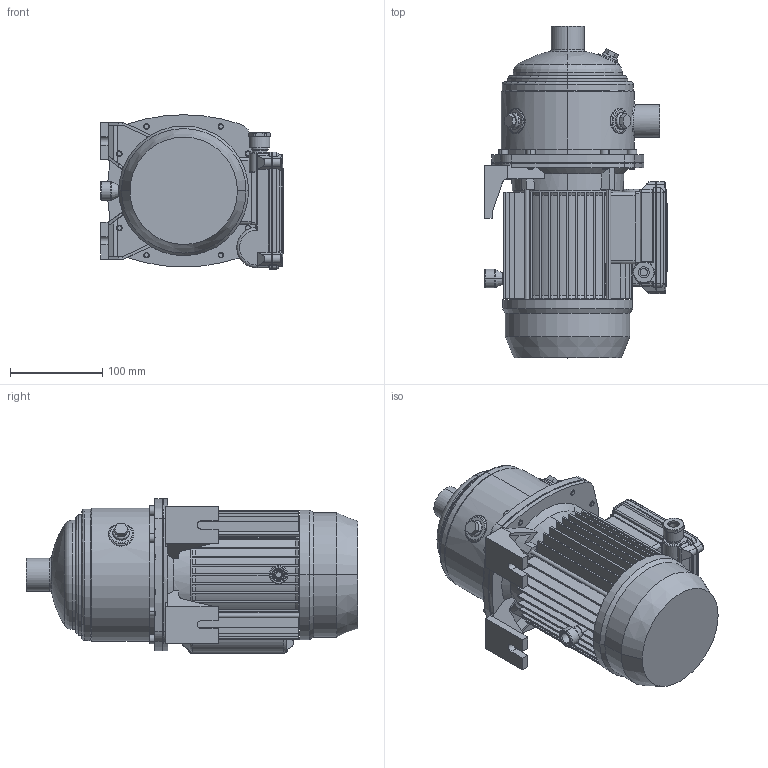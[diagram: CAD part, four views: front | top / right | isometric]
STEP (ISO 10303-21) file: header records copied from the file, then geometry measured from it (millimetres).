
FILE_DESCRIPTION((''),'2;1');
FILE_NAME('ASM0010_ASM','2017-10-10T',('shehi'),('"Ebara Pumps Europe +39.444.706811"'),'PRO/ENGINEER BY PARAMETRIC TECHNOLOGY CORPORATION, 2014200','PRO/ENGINEER BY PARAMETRIC TECHNOLOGY CORPORATION, 2014200','');
FILE_SCHEMA(('AUTOMOTIVE_DESIGN { 1 0 10303 214 1 1 1 1 }'));
Length unit declared in the file: millimetre
Products named in the file (7): CORPOMATRIX3-2; PRT0065; PRT0066; PRT0067; PRT0068; ASM0011_ASM; ASM0010_ASM
Assembly tree (6 placements, depth 3):
  ASM0010_ASM
    ASM0011_ASM
      CORPOMATRIX3-2
      PRT0065
      PRT0066
      PRT0067
      PRT0068
Bounding box: 198 x 359.8 x 167.5 mm (x, y, z)
Volume: 3966776.2 mm3; surface area: 500698.6 mm2
Topology: 5 solids, 5 shells, 938 faces, 2400 edges, 1521 vertices
Faces by surface type: plane 455, cylinder 277, cone 126, torus 43, bspline 27, sphere 10
Entity records: 38825 total; most frequent: CARTESIAN_POINT 7692, DIRECTION 4936, ORIENTED_EDGE 4790, PRESENTATION_STYLE_ASSIGNMENT 2400, STYLED_ITEM 2400, CURVE_STYLE 2395, EDGE_CURVE 2395, AXIS2_PLACEMENT_3D 1902
